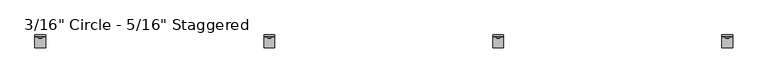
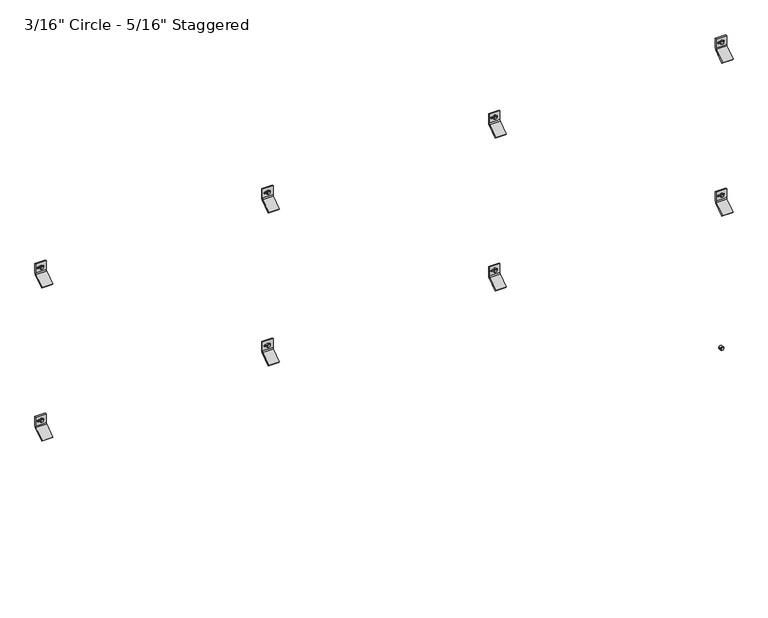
"""IFC4 building model written with IfcOpenShell, lengths in millimetres: plate geometry."""

from ifc_helpers import new_model, si_unit, point, frame, frame_2d, origin, place, context, project, spatial, polyline, circle_curve, trimmed, segment, composite_curve, outline, extrude, source, transform, mapped, element, save
from ifc_brep_helpers import plane_surface, cylinder_surface, revolved_surface, advanced_brep


def plate_44aea27e(model_context):
    return source(origin(), model_context, "Body", "SolidModel", [
        extrude(outline(polyline([(1923.7554341, 1223.7070034), (1919.4097216, 1226.2160017), (1919.4097216, 1231.2339983), (1923.7554341, 1233.7429966), (1928.1011466, 1231.2339983), (1928.1011466, 1226.2160017), (1923.7554341, 1223.7070034)])), frame((0.0, -58.7607779, 0.0), z_axis=(0.0, 1.0, 0.0), x_axis=(0.0, 0.0, 1.0)), (0.0, 0.0, 1.0), 11.1357779),
        extrude(outline(composite_curve([segment(trimmed(circle_curve(frame_2d((1923.8487411, 1228.725)), 6.35), [point((1923.8487411, 1235.075))], [point((1923.8487411, 1222.375))], False, "CARTESIAN"), True, "CONTINUOUS"), segment(trimmed(circle_curve(frame_2d((1923.8487411, 1228.725)), 6.35), [point((1923.8487411, 1222.375))], [point((1923.8487411, 1235.075))], False, "CARTESIAN"), True, "CONTINUOUS")], self_intersect=False)), frame((0.0, -57.0817743, 0.0), z_axis=(0.0, 1.0, 0.0), x_axis=(0.0, 0.0, 1.0)), (0.0, 0.0, 1.0), 9.4567743),
        advanced_brep(
        [(1209.675, -47.625, 1906.606122), (1209.675, -51.2819443, 1898.9440896), (1209.675, -89.5163624, 1872.1720618), (1209.675, -92.9330442, 1875.5887436), (1209.675, -54.3526876, 1902.6030001), (1209.675, -52.4002, 1906.6061929), (1209.675, -52.4002, 1940.7988072), (1209.675, -47.625, 1940.7988072), (1247.775, -47.625, 1906.606122), (1247.775, -47.625, 1940.7988072), (1247.775, -52.4002, 1940.7988072), (1247.775, -52.4002, 1906.6061929), (1247.775, -54.3526876, 1902.6030001), (1247.775, -92.9330442, 1875.5887436), (1247.775, -89.5163624, 1872.1720618), (1247.775, -51.2819443, 1898.9440896), (1235.4661889, -52.4002, 1926.753591), (1235.4661889, -52.4002, 1920.403591), (1219.2383287, -52.4002, 1920.403591), (1219.2383287, -52.4002, 1926.753591), (1235.4661889, -47.625, 1920.403591), (1235.4661889, -47.625, 1926.753591), (1219.2383287, -47.625, 1926.753591), (1219.2383287, -47.625, 1920.403591)],
        [
            (0, 1, circle_curve(frame((1209.675, -57.4802202, 1906.606122), z_axis=(-1.0, 0.0, 0.0), x_axis=(0.0, -1.0, 0.0)), 9.8552202)),
            (1, 2),
            (2, 3),
            (3, 4),
            (4, 5, circle_curve(frame((1209.675, -57.4803246, 1906.6061929), z_axis=(1.0, 0.0, 0.0), x_axis=(0.0, -1.0, 0.0)), 5.0801246)),
            (5, 6),
            (6, 7),
            (7, 0),
            (8, 9),
            (9, 10),
            (10, 11),
            (11, 12, circle_curve(frame((1247.775, -57.4803246, 1906.6061929), z_axis=(-1.0, 0.0, 0.0), x_axis=(0.0, -1.0, 0.0)), 5.0801246)),
            (12, 13),
            (13, 14),
            (14, 15),
            (15, 8, circle_curve(frame((1247.775, -57.4802202, 1906.606122), z_axis=(1.0, 0.0, 0.0), x_axis=(0.0, -1.0, 0.0)), 9.8552202)),
            (4, 12),
            (11, 5),
            (10, 6),
            (16, 17, circle_curve(frame((1235.4661889, -52.4002, 1923.578591), z_axis=(0.0, 1.0, 0.0), x_axis=(0.0, 0.0, -1.0)), 3.175)),
            (17, 18),
            (18, 19, circle_curve(frame((1219.2383287, -52.4002, 1923.578591), z_axis=(0.0, 1.0, 0.0), x_axis=(0.0, 0.0, -1.0)), 3.175)),
            (19, 16),
            (9, 7),
            (8, 0),
            (20, 21, circle_curve(frame((1235.4661889, -47.625, 1923.578591), z_axis=(0.0, -1.0, 0.0), x_axis=(0.0, 0.0, -1.0)), 3.175)),
            (21, 22),
            (22, 23, circle_curve(frame((1219.2383287, -47.625, 1923.578591), z_axis=(0.0, -1.0, 0.0), x_axis=(0.0, 0.0, -1.0)), 3.175)),
            (23, 20),
            (15, 1),
            (20, 17),
            (16, 21),
            (19, 22),
            (18, 23),
            (14, 2),
            (13, 3),
        ],
        [
            plane_surface(frame((1209.675, -67.3354404, 1906.606122), z_axis=(-1.0, 0.0, 0.0), x_axis=(0.0, 0.0, 1.0))),
            plane_surface(frame((1247.775, -67.3354404, 1906.606122), z_axis=(1.0, 0.0, 0.0), x_axis=(0.0, 0.0, -1.0))),
            revolved_surface(polyline([(1247.775, -62.5604492, 1906.6061929), (1209.675, -62.5604492, 1906.6061929)]), (1247.775, -57.4803246, 1906.6061929), (1.0, 0.0, 0.0)),
            plane_surface(frame((1209.675, -52.4002, 1906.6061929), z_axis=(0.0, -1.0, 0.0), x_axis=(1.0, 0.0, 0.0))),
            plane_surface(frame((1209.675, -52.4002, 1940.7988072), z_axis=(0.0, 0.0, 1.0), x_axis=(1.0, 0.0, 0.0))),
            plane_surface(frame((1209.675, -47.625, 1940.7988072), z_axis=(0.0, 1.0, 6.99569853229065e-12), x_axis=(1.0, 0.0, 0.0))),
            cylinder_surface(frame((1247.775, -57.4802202, 1906.606122), z_axis=(-1.0, 0.0, 0.0), x_axis=(0.0, -1.0, 0.0)), 9.8552202),
            revolved_surface(polyline([(1235.4661889, -52.4002, 1920.403591), (1235.4661889, -47.625, 1920.403591)]), (1235.4661889, -25.6669948, 1923.578591), (0.0, -1.0, 0.0)),
            plane_surface(frame((1235.4661889, -86.677982, 1926.753591), z_axis=(0.0, 0.0, -1.0), x_axis=(0.0, 1.0, 0.0))),
            revolved_surface(polyline([(1219.2383287, -52.4002, 1920.403591), (1219.2383287, -47.625, 1920.403591)]), (1219.2383287, -25.6669948, 1923.578591), (0.0, -1.0, 0.0)),
            plane_surface(frame((1219.2383287, -86.677982, 1920.403591), z_axis=(-2.7237720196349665e-11, 0.0, 1.0), x_axis=(0.0, 1.0, 0.0))),
            plane_surface(frame((1209.675, -51.2819443, 1898.9440896), z_axis=(0.0, 0.5735764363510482, -0.8191520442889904), x_axis=(1.0, 0.0, 0.0))),
            plane_surface(frame((1209.675, -89.5163624, 1872.1720618), z_axis=(0.0, -0.7071067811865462, -0.7071067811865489), x_axis=(1.0, 0.0, 0.0))),
            plane_surface(frame((1209.675, -92.9330442, 1875.5887436), z_axis=(0.0, -0.5735764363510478, 0.8191520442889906), x_axis=(1.0, 0.0, 0.0))),
        ],
        [
            (0, [[1, 2, 3, 4, 5, 6, 7, 8]]),
            (1, [[9, 10, 11, 12, 13, 14, 15, 16]]),
            (2, [[-5, 17, -12, 18]]),
            (3, [[-6, -18, -11, 19], [20, 21, 22, 23]]),
            (4, [[-7, -19, -10, 24]]),
            (5, [[-8, -24, -9, 25], [26, 27, 28, 29]]),
            (6, [[-1, -25, -16, 30]]),
            (7, [[31, -20, 32, -26]]),
            (8, [[-32, -23, 33, -27]]),
            (9, [[-33, -22, 34, -28]]),
            (10, [[-31, -29, -34, -21]]),
            (11, [[-2, -30, -15, 35]]),
            (12, [[-3, -35, -14, 36]]),
            (13, [[-4, -36, -13, -17]]),
        ],
    ),
        extrude(outline(polyline([(1923.7554341, 404.5570034), (1919.4097216, 407.0660017), (1919.4097216, 412.0839983), (1923.7554341, 414.5929966), (1928.1011466, 412.0839983), (1928.1011466, 407.0660017), (1923.7554341, 404.5570034)])), frame((0.0, -58.7607779, 0.0), z_axis=(0.0, 1.0, 0.0), x_axis=(0.0, 0.0, 1.0)), (0.0, 0.0, 1.0), 11.1357779),
        extrude(outline(composite_curve([segment(trimmed(circle_curve(frame_2d((1923.8487411, 409.575)), 6.35), [point((1923.8487411, 415.925))], [point((1923.8487411, 403.225))], False, "CARTESIAN"), True, "CONTINUOUS"), segment(trimmed(circle_curve(frame_2d((1923.8487411, 409.575)), 6.35), [point((1923.8487411, 403.225))], [point((1923.8487411, 415.925))], False, "CARTESIAN"), True, "CONTINUOUS")], self_intersect=False)), frame((0.0, -57.0817743, 0.0), z_axis=(0.0, 1.0, 0.0), x_axis=(0.0, 0.0, 1.0)), (0.0, 0.0, 1.0), 9.4567743),
        advanced_brep(
        [(390.525, -47.625, 1906.606122), (390.525, -51.2819443, 1898.9440896), (390.525, -89.5163624, 1872.1720618), (390.525, -92.9330442, 1875.5887436), (390.525, -54.3526876, 1902.6030001), (390.525, -52.4002, 1906.6061929), (390.525, -52.4002, 1940.7988072), (390.525, -47.625, 1940.7988072), (428.625, -47.625, 1906.606122), (428.625, -47.625, 1940.7988072), (428.625, -52.4002, 1940.7988072), (428.625, -52.4002, 1906.6061929), (428.625, -54.3526876, 1902.6030001), (428.625, -92.9330442, 1875.5887436), (428.625, -89.5163624, 1872.1720618), (428.625, -51.2819443, 1898.9440896), (416.3161889, -52.4002, 1926.753591), (416.3161889, -52.4002, 1920.403591), (400.0883287, -52.4002, 1920.403591), (400.0883287, -52.4002, 1926.753591), (416.3161889, -47.625, 1920.403591), (416.3161889, -47.625, 1926.753591), (400.0883287, -47.625, 1926.753591), (400.0883287, -47.625, 1920.403591)],
        [
            (0, 1, circle_curve(frame((390.525, -57.4802202, 1906.606122), z_axis=(-1.0, 0.0, 0.0), x_axis=(0.0, -1.0, 0.0)), 9.8552202)),
            (1, 2),
            (2, 3),
            (3, 4),
            (4, 5, circle_curve(frame((390.525, -57.4803246, 1906.6061929), z_axis=(1.0, 0.0, 0.0), x_axis=(0.0, -1.0, 0.0)), 5.0801246)),
            (5, 6),
            (6, 7),
            (7, 0),
            (8, 9),
            (9, 10),
            (10, 11),
            (11, 12, circle_curve(frame((428.625, -57.4803246, 1906.6061929), z_axis=(-1.0, 0.0, 0.0), x_axis=(0.0, -1.0, 0.0)), 5.0801246)),
            (12, 13),
            (13, 14),
            (14, 15),
            (15, 8, circle_curve(frame((428.625, -57.4802202, 1906.606122), z_axis=(1.0, 0.0, 0.0), x_axis=(0.0, -1.0, 0.0)), 9.8552202)),
            (4, 12),
            (11, 5),
            (10, 6),
            (16, 17, circle_curve(frame((416.3161889, -52.4002, 1923.578591), z_axis=(0.0, 1.0, 0.0), x_axis=(0.0, 0.0, -1.0)), 3.175)),
            (17, 18),
            (18, 19, circle_curve(frame((400.0883287, -52.4002, 1923.578591), z_axis=(0.0, 1.0, 0.0), x_axis=(0.0, 0.0, -1.0)), 3.175)),
            (19, 16),
            (9, 7),
            (8, 0),
            (20, 21, circle_curve(frame((416.3161889, -47.625, 1923.578591), z_axis=(0.0, -1.0, 0.0), x_axis=(0.0, 0.0, -1.0)), 3.175)),
            (21, 22),
            (22, 23, circle_curve(frame((400.0883287, -47.625, 1923.578591), z_axis=(0.0, -1.0, 0.0), x_axis=(0.0, 0.0, -1.0)), 3.175)),
            (23, 20),
            (15, 1),
            (20, 17),
            (16, 21),
            (19, 22),
            (18, 23),
            (14, 2),
            (13, 3),
        ],
        [
            plane_surface(frame((390.525, -67.3354404, 1906.606122), z_axis=(-1.0, 0.0, 0.0), x_axis=(0.0, 0.0, 1.0))),
            plane_surface(frame((428.625, -67.3354404, 1906.606122), z_axis=(1.0, 0.0, 0.0), x_axis=(0.0, 0.0, -1.0))),
            revolved_surface(polyline([(428.625, -62.5604492, 1906.6061929), (390.525, -62.5604492, 1906.6061929)]), (428.625, -57.4803246, 1906.6061929), (1.0, 0.0, 0.0)),
            plane_surface(frame((390.525, -52.4002, 1906.6061929), z_axis=(0.0, -1.0, 0.0), x_axis=(1.0, 0.0, 0.0))),
            plane_surface(frame((390.525, -52.4002, 1940.7988072), z_axis=(0.0, 0.0, 1.0), x_axis=(1.0, 0.0, 0.0))),
            plane_surface(frame((390.525, -47.625, 1940.7988072), z_axis=(0.0, 1.0, 6.99569853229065e-12), x_axis=(1.0, 0.0, 0.0))),
            cylinder_surface(frame((428.625, -57.4802202, 1906.606122), z_axis=(-1.0, 0.0, 0.0), x_axis=(0.0, -1.0, 0.0)), 9.8552202),
            revolved_surface(polyline([(416.3161889, -52.4002, 1920.403591), (416.3161889, -47.625, 1920.403591)]), (416.3161889, -25.6669948, 1923.578591), (0.0, -1.0, 0.0)),
            plane_surface(frame((416.3161889, -86.677982, 1926.753591), z_axis=(0.0, 0.0, -1.0), x_axis=(0.0, 1.0, 0.0))),
            revolved_surface(polyline([(400.0883287, -52.4002, 1920.403591), (400.0883287, -47.625, 1920.403591)]), (400.0883287, -25.6669948, 1923.578591), (0.0, -1.0, 0.0)),
            plane_surface(frame((400.0883287, -86.677982, 1920.403591), z_axis=(-2.7237720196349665e-11, 0.0, 1.0), x_axis=(0.0, 1.0, 0.0))),
            plane_surface(frame((390.525, -51.2819443, 1898.9440896), z_axis=(0.0, 0.5735764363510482, -0.8191520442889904), x_axis=(1.0, 0.0, 0.0))),
            plane_surface(frame((390.525, -89.5163624, 1872.1720618), z_axis=(0.0, -0.7071067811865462, -0.7071067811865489), x_axis=(1.0, 0.0, 0.0))),
            plane_surface(frame((390.525, -92.9330442, 1875.5887436), z_axis=(0.0, -0.5735764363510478, 0.8191520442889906), x_axis=(1.0, 0.0, 0.0))),
        ],
        [
            (0, [[1, 2, 3, 4, 5, 6, 7, 8]]),
            (1, [[9, 10, 11, 12, 13, 14, 15, 16]]),
            (2, [[-5, 17, -12, 18]]),
            (3, [[-6, -18, -11, 19], [20, 21, 22, 23]]),
            (4, [[-7, -19, -10, 24]]),
            (5, [[-8, -24, -9, 25], [26, 27, 28, 29]]),
            (6, [[-1, -25, -16, 30]]),
            (7, [[31, -20, 32, -26]]),
            (8, [[-32, -23, 33, -27]]),
            (9, [[-33, -22, 34, -28]]),
            (10, [[-31, -29, -34, -21]]),
            (11, [[-2, -30, -15, 35]]),
            (12, [[-3, -35, -14, 36]]),
            (13, [[-4, -36, -13, -17]]),
        ],
    ),
        extrude(outline(polyline([(1923.7554341, -414.5929966), (1919.4097216, -412.0839983), (1919.4097216, -407.0660017), (1923.7554341, -404.5570034), (1928.1011466, -407.0660017), (1928.1011466, -412.0839983), (1923.7554341, -414.5929966)])), frame((0.0, -58.7607779, 0.0), z_axis=(0.0, 1.0, 0.0), x_axis=(0.0, 0.0, 1.0)), (0.0, 0.0, 1.0), 11.1357779),
        extrude(outline(composite_curve([segment(trimmed(circle_curve(frame_2d((1923.8487411, -409.575)), 6.35), [point((1923.8487411, -403.225))], [point((1923.8487411, -415.925))], False, "CARTESIAN"), True, "CONTINUOUS"), segment(trimmed(circle_curve(frame_2d((1923.8487411, -409.575)), 6.35), [point((1923.8487411, -415.925))], [point((1923.8487411, -403.225))], False, "CARTESIAN"), True, "CONTINUOUS")], self_intersect=False)), frame((0.0, -57.0817743, 0.0), z_axis=(0.0, 1.0, 0.0), x_axis=(0.0, 0.0, 1.0)), (0.0, 0.0, 1.0), 9.4567743),
        advanced_brep(
        [(-428.625, -47.625, 1906.606122), (-428.625, -51.2819443, 1898.9440896), (-428.625, -89.5163624, 1872.1720618), (-428.625, -92.9330442, 1875.5887436), (-428.625, -54.3526876, 1902.6030001), (-428.625, -52.4002, 1906.6061929), (-428.625, -52.4002, 1940.7988072), (-428.625, -47.625, 1940.7988072), (-390.525, -47.625, 1906.606122), (-390.525, -47.625, 1940.7988072), (-390.525, -52.4002, 1940.7988072), (-390.525, -52.4002, 1906.6061929), (-390.525, -54.3526876, 1902.6030001), (-390.525, -92.9330442, 1875.5887436), (-390.525, -89.5163624, 1872.1720618), (-390.525, -51.2819443, 1898.9440896), (-402.8338111, -52.4002, 1926.753591), (-402.8338111, -52.4002, 1920.403591), (-419.0616713, -52.4002, 1920.403591), (-419.0616713, -52.4002, 1926.753591), (-402.8338111, -47.625, 1920.403591), (-402.8338111, -47.625, 1926.753591), (-419.0616713, -47.625, 1926.753591), (-419.0616713, -47.625, 1920.403591)],
        [
            (0, 1, circle_curve(frame((-428.625, -57.4802202, 1906.606122), z_axis=(-1.0, 0.0, 0.0), x_axis=(0.0, -1.0, 0.0)), 9.8552202)),
            (1, 2),
            (2, 3),
            (3, 4),
            (4, 5, circle_curve(frame((-428.625, -57.4803246, 1906.6061929), z_axis=(1.0, 0.0, 0.0), x_axis=(0.0, -1.0, 0.0)), 5.0801246)),
            (5, 6),
            (6, 7),
            (7, 0),
            (8, 9),
            (9, 10),
            (10, 11),
            (11, 12, circle_curve(frame((-390.525, -57.4803246, 1906.6061929), z_axis=(-1.0, 0.0, 0.0), x_axis=(0.0, -1.0, 0.0)), 5.0801246)),
            (12, 13),
            (13, 14),
            (14, 15),
            (15, 8, circle_curve(frame((-390.525, -57.4802202, 1906.606122), z_axis=(1.0, 0.0, 0.0), x_axis=(0.0, -1.0, 0.0)), 9.8552202)),
            (4, 12),
            (11, 5),
            (10, 6),
            (16, 17, circle_curve(frame((-402.8338111, -52.4002, 1923.578591), z_axis=(0.0, 1.0, 0.0), x_axis=(0.0, 0.0, -1.0)), 3.175)),
            (17, 18),
            (18, 19, circle_curve(frame((-419.0616713, -52.4002, 1923.578591), z_axis=(0.0, 1.0, 0.0), x_axis=(0.0, 0.0, -1.0)), 3.175)),
            (19, 16),
            (9, 7),
            (8, 0),
            (20, 21, circle_curve(frame((-402.8338111, -47.625, 1923.578591), z_axis=(0.0, -1.0, 0.0), x_axis=(0.0, 0.0, -1.0)), 3.175)),
            (21, 22),
            (22, 23, circle_curve(frame((-419.0616713, -47.625, 1923.578591), z_axis=(0.0, -1.0, 0.0), x_axis=(0.0, 0.0, -1.0)), 3.175)),
            (23, 20),
            (15, 1),
            (20, 17),
            (16, 21),
            (19, 22),
            (18, 23),
            (14, 2),
            (13, 3),
        ],
        [
            plane_surface(frame((-428.625, -67.3354404, 1906.606122), z_axis=(-1.0, 0.0, 0.0), x_axis=(0.0, 0.0, 1.0))),
            plane_surface(frame((-390.525, -67.3354404, 1906.606122), z_axis=(1.0, 0.0, 0.0), x_axis=(0.0, 0.0, -1.0))),
            revolved_surface(polyline([(-390.525, -62.5604492, 1906.6061929), (-428.625, -62.5604492, 1906.6061929)]), (-390.525, -57.4803246, 1906.6061929), (1.0, 0.0, 0.0)),
            plane_surface(frame((-428.625, -52.4002, 1906.6061929), z_axis=(0.0, -1.0, 0.0), x_axis=(1.0, 0.0, 0.0))),
            plane_surface(frame((-428.625, -52.4002, 1940.7988072), z_axis=(0.0, 0.0, 1.0), x_axis=(1.0, 0.0, 0.0))),
            plane_surface(frame((-428.625, -47.625, 1940.7988072), z_axis=(0.0, 1.0, 6.99569853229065e-12), x_axis=(1.0, 0.0, 0.0))),
            cylinder_surface(frame((-390.525, -57.4802202, 1906.606122), z_axis=(-1.0, 0.0, 0.0), x_axis=(0.0, -1.0, 0.0)), 9.8552202),
            revolved_surface(polyline([(-402.8338111, -52.4002, 1920.403591), (-402.8338111, -47.625, 1920.403591)]), (-402.8338111, -25.6669948, 1923.578591), (0.0, -1.0, 0.0)),
            plane_surface(frame((-402.8338111, -86.677982, 1926.753591), z_axis=(0.0, 0.0, -1.0), x_axis=(0.0, 1.0, 0.0))),
            revolved_surface(polyline([(-419.0616713, -52.4002, 1920.403591), (-419.0616713, -47.625, 1920.403591)]), (-419.0616713, -25.6669948, 1923.578591), (0.0, -1.0, 0.0)),
            plane_surface(frame((-419.0616713, -86.677982, 1920.403591), z_axis=(-2.7237720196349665e-11, 0.0, 1.0), x_axis=(0.0, 1.0, 0.0))),
            plane_surface(frame((-428.625, -51.2819443, 1898.9440896), z_axis=(0.0, 0.5735764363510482, -0.8191520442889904), x_axis=(1.0, 0.0, 0.0))),
            plane_surface(frame((-428.625, -89.5163624, 1872.1720618), z_axis=(0.0, -0.7071067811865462, -0.7071067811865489), x_axis=(1.0, 0.0, 0.0))),
            plane_surface(frame((-428.625, -92.9330442, 1875.5887436), z_axis=(0.0, -0.5735764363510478, 0.8191520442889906), x_axis=(1.0, 0.0, 0.0))),
        ],
        [
            (0, [[1, 2, 3, 4, 5, 6, 7, 8]]),
            (1, [[9, 10, 11, 12, 13, 14, 15, 16]]),
            (2, [[-5, 17, -12, 18]]),
            (3, [[-6, -18, -11, 19], [20, 21, 22, 23]]),
            (4, [[-7, -19, -10, 24]]),
            (5, [[-8, -24, -9, 25], [26, 27, 28, 29]]),
            (6, [[-1, -25, -16, 30]]),
            (7, [[31, -20, 32, -26]]),
            (8, [[-32, -23, 33, -27]]),
            (9, [[-33, -22, 34, -28]]),
            (10, [[-31, -29, -34, -21]]),
            (11, [[-2, -30, -15, 35]]),
            (12, [[-3, -35, -14, 36]]),
            (13, [[-4, -36, -13, -17]]),
        ],
    ),
        extrude(outline(polyline([(1923.7554341, -1233.7429966), (1919.4097216, -1231.2339983), (1919.4097216, -1226.2160017), (1923.7554341, -1223.7070034), (1928.1011466, -1226.2160017), (1928.1011466, -1231.2339983), (1923.7554341, -1233.7429966)])), frame((0.0, -58.7607779, 0.0), z_axis=(0.0, 1.0, 0.0), x_axis=(0.0, 0.0, 1.0)), (0.0, 0.0, 1.0), 11.1357779),
        extrude(outline(composite_curve([segment(trimmed(circle_curve(frame_2d((1923.8487411, -1228.725)), 6.35), [point((1923.8487411, -1222.375))], [point((1923.8487411, -1235.075))], False, "CARTESIAN"), True, "CONTINUOUS"), segment(trimmed(circle_curve(frame_2d((1923.8487411, -1228.725)), 6.35), [point((1923.8487411, -1235.075))], [point((1923.8487411, -1222.375))], False, "CARTESIAN"), True, "CONTINUOUS")], self_intersect=False)), frame((0.0, -57.0817743, 0.0), z_axis=(0.0, 1.0, 0.0), x_axis=(0.0, 0.0, 1.0)), (0.0, 0.0, 1.0), 9.4567743),
        advanced_brep(
        [(-1247.775, -47.625, 1906.606122), (-1247.775, -51.2819443, 1898.9440896), (-1247.775, -89.5163624, 1872.1720618), (-1247.775, -92.9330442, 1875.5887436), (-1247.775, -54.3526876, 1902.6030001), (-1247.775, -52.4002, 1906.6061929), (-1247.775, -52.4002, 1940.7988072), (-1247.775, -47.625, 1940.7988072), (-1209.675, -47.625, 1906.606122), (-1209.675, -47.625, 1940.7988072), (-1209.675, -52.4002, 1940.7988072), (-1209.675, -52.4002, 1906.6061929), (-1209.675, -54.3526876, 1902.6030001), (-1209.675, -92.9330442, 1875.5887436), (-1209.675, -89.5163624, 1872.1720618), (-1209.675, -51.2819443, 1898.9440896), (-1221.9838111, -52.4002, 1926.753591), (-1221.9838111, -52.4002, 1920.403591), (-1238.2116713, -52.4002, 1920.403591), (-1238.2116713, -52.4002, 1926.753591), (-1221.9838111, -47.625, 1920.403591), (-1221.9838111, -47.625, 1926.753591), (-1238.2116713, -47.625, 1926.753591), (-1238.2116713, -47.625, 1920.403591)],
        [
            (0, 1, circle_curve(frame((-1247.775, -57.4802202, 1906.606122), z_axis=(-1.0, 0.0, 0.0), x_axis=(0.0, -1.0, 0.0)), 9.8552202)),
            (1, 2),
            (2, 3),
            (3, 4),
            (4, 5, circle_curve(frame((-1247.775, -57.4803246, 1906.6061929), z_axis=(1.0, 0.0, 0.0), x_axis=(0.0, -1.0, 0.0)), 5.0801246)),
            (5, 6),
            (6, 7),
            (7, 0),
            (8, 9),
            (9, 10),
            (10, 11),
            (11, 12, circle_curve(frame((-1209.675, -57.4803246, 1906.6061929), z_axis=(-1.0, 0.0, 0.0), x_axis=(0.0, -1.0, 0.0)), 5.0801246)),
            (12, 13),
            (13, 14),
            (14, 15),
            (15, 8, circle_curve(frame((-1209.675, -57.4802202, 1906.606122), z_axis=(1.0, 0.0, 0.0), x_axis=(0.0, -1.0, 0.0)), 9.8552202)),
            (4, 12),
            (11, 5),
            (10, 6),
            (16, 17, circle_curve(frame((-1221.9838111, -52.4002, 1923.578591), z_axis=(0.0, 1.0, 0.0), x_axis=(0.0, 0.0, -1.0)), 3.175)),
            (17, 18),
            (18, 19, circle_curve(frame((-1238.2116713, -52.4002, 1923.578591), z_axis=(0.0, 1.0, 0.0), x_axis=(0.0, 0.0, -1.0)), 3.175)),
            (19, 16),
            (9, 7),
            (8, 0),
            (20, 21, circle_curve(frame((-1221.9838111, -47.625, 1923.578591), z_axis=(0.0, -1.0, 0.0), x_axis=(0.0, 0.0, -1.0)), 3.175)),
            (21, 22),
            (22, 23, circle_curve(frame((-1238.2116713, -47.625, 1923.578591), z_axis=(0.0, -1.0, 0.0), x_axis=(0.0, 0.0, -1.0)), 3.175)),
            (23, 20),
            (15, 1),
            (20, 17),
            (16, 21),
            (19, 22),
            (18, 23),
            (14, 2),
            (13, 3),
        ],
        [
            plane_surface(frame((-1247.775, -67.3354404, 1906.606122), z_axis=(-1.0, 0.0, 0.0), x_axis=(0.0, 0.0, 1.0))),
            plane_surface(frame((-1209.675, -67.3354404, 1906.606122), z_axis=(1.0, 0.0, 0.0), x_axis=(0.0, 0.0, -1.0))),
            revolved_surface(polyline([(-1209.675, -62.5604492, 1906.6061929), (-1247.775, -62.5604492, 1906.6061929)]), (-1209.675, -57.4803246, 1906.6061929), (1.0, 0.0, 0.0)),
            plane_surface(frame((-1247.775, -52.4002, 1906.6061929), z_axis=(0.0, -1.0, 0.0), x_axis=(1.0, 0.0, 0.0))),
            plane_surface(frame((-1247.775, -52.4002, 1940.7988072), z_axis=(0.0, 0.0, 1.0), x_axis=(1.0, 0.0, 0.0))),
            plane_surface(frame((-1247.775, -47.625, 1940.7988072), z_axis=(0.0, 1.0, 6.99569853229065e-12), x_axis=(1.0, 0.0, 0.0))),
            cylinder_surface(frame((-1209.675, -57.4802202, 1906.606122), z_axis=(-1.0, 0.0, 0.0), x_axis=(0.0, -1.0, 0.0)), 9.8552202),
            revolved_surface(polyline([(-1221.9838111, -52.4002, 1920.403591), (-1221.9838111, -47.625, 1920.403591)]), (-1221.9838111, -25.6669948, 1923.578591), (0.0, -1.0, 0.0)),
            plane_surface(frame((-1221.9838111, -86.677982, 1926.753591), z_axis=(0.0, 0.0, -1.0), x_axis=(0.0, 1.0, 0.0))),
            revolved_surface(polyline([(-1238.2116713, -52.4002, 1920.403591), (-1238.2116713, -47.625, 1920.403591)]), (-1238.2116713, -25.6669948, 1923.578591), (0.0, -1.0, 0.0)),
            plane_surface(frame((-1238.2116713, -86.677982, 1920.403591), z_axis=(-2.7237720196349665e-11, 0.0, 1.0), x_axis=(0.0, 1.0, 0.0))),
            plane_surface(frame((-1247.775, -51.2819443, 1898.9440896), z_axis=(0.0, 0.5735764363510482, -0.8191520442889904), x_axis=(1.0, 0.0, 0.0))),
            plane_surface(frame((-1247.775, -89.5163624, 1872.1720618), z_axis=(0.0, -0.7071067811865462, -0.7071067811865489), x_axis=(1.0, 0.0, 0.0))),
            plane_surface(frame((-1247.775, -92.9330442, 1875.5887436), z_axis=(0.0, -0.5735764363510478, 0.8191520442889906), x_axis=(1.0, 0.0, 0.0))),
        ],
        [
            (0, [[1, 2, 3, 4, 5, 6, 7, 8]]),
            (1, [[9, 10, 11, 12, 13, 14, 15, 16]]),
            (2, [[-5, 17, -12, 18]]),
            (3, [[-6, -18, -11, 19], [20, 21, 22, 23]]),
            (4, [[-7, -19, -10, 24]]),
            (5, [[-8, -24, -9, 25], [26, 27, 28, 29]]),
            (6, [[-1, -25, -16, 30]]),
            (7, [[31, -20, 32, -26]]),
            (8, [[-32, -23, 33, -27]]),
            (9, [[-33, -22, 34, -28]]),
            (10, [[-31, -29, -34, -21]]),
            (11, [[-2, -30, -15, 35]]),
            (12, [[-3, -35, -14, 36]]),
            (13, [[-4, -36, -13, -17]]),
        ],
    ),
        extrude(outline(polyline([(1339.1301335, 1223.7070034), (1334.784421, 1226.2160017), (1334.784421, 1231.2339983), (1339.1301335, 1233.7429966), (1343.475846, 1231.2339983), (1343.475846, 1226.2160017), (1339.1301335, 1223.7070034)])), frame((0.0, -58.7607779, 0.0), z_axis=(0.0, 1.0, 0.0), x_axis=(0.0, 0.0, 1.0)), (0.0, 0.0, 1.0), 11.1357779),
        extrude(outline(composite_curve([segment(trimmed(circle_curve(frame_2d((1339.2234405, 1228.725)), 6.35), [point((1339.2234405, 1235.075))], [point((1339.2234405, 1222.375))], False, "CARTESIAN"), True, "CONTINUOUS"), segment(trimmed(circle_curve(frame_2d((1339.2234405, 1228.725)), 6.35), [point((1339.2234405, 1222.375))], [point((1339.2234405, 1235.075))], False, "CARTESIAN"), True, "CONTINUOUS")], self_intersect=False)), frame((0.0, -57.0817743, 0.0), z_axis=(0.0, 1.0, 0.0), x_axis=(0.0, 0.0, 1.0)), (0.0, 0.0, 1.0), 9.4567743),
        advanced_brep(
        [(1209.675, -47.625, 1321.9808214), (1209.675, -51.2819443, 1314.318789), (1209.675, -89.5163624, 1287.5467612), (1209.675, -92.9330442, 1290.963443), (1209.675, -54.3526876, 1317.9776995), (1209.675, -52.4002, 1321.9808923), (1209.675, -52.4002, 1356.1735066), (1209.675, -47.625, 1356.1735066), (1247.775, -47.625, 1321.9808214), (1247.775, -47.625, 1356.1735066), (1247.775, -52.4002, 1356.1735066), (1247.775, -52.4002, 1321.9808923), (1247.775, -54.3526876, 1317.9776995), (1247.775, -92.9330442, 1290.963443), (1247.775, -89.5163624, 1287.5467612), (1247.775, -51.2819443, 1314.318789), (1235.4661889, -52.4002, 1342.1282903), (1235.4661889, -52.4002, 1335.7782903), (1219.2383287, -52.4002, 1335.7782903), (1219.2383287, -52.4002, 1342.1282903), (1235.4661889, -47.625, 1335.7782903), (1235.4661889, -47.625, 1342.1282903), (1219.2383287, -47.625, 1342.1282903), (1219.2383287, -47.625, 1335.7782903)],
        [
            (0, 1, circle_curve(frame((1209.675, -57.4802202, 1321.9808214), z_axis=(-1.0, 0.0, 0.0), x_axis=(0.0, -1.0, 0.0)), 9.8552202)),
            (1, 2),
            (2, 3),
            (3, 4),
            (4, 5, circle_curve(frame((1209.675, -57.4803246, 1321.9808923), z_axis=(1.0, 0.0, 0.0), x_axis=(0.0, -1.0, 0.0)), 5.0801246)),
            (5, 6),
            (6, 7),
            (7, 0),
            (8, 9),
            (9, 10),
            (10, 11),
            (11, 12, circle_curve(frame((1247.775, -57.4803246, 1321.9808923), z_axis=(-1.0, 0.0, 0.0), x_axis=(0.0, -1.0, 0.0)), 5.0801246)),
            (12, 13),
            (13, 14),
            (14, 15),
            (15, 8, circle_curve(frame((1247.775, -57.4802202, 1321.9808214), z_axis=(1.0, 0.0, 0.0), x_axis=(0.0, -1.0, 0.0)), 9.8552202)),
            (4, 12),
            (11, 5),
            (10, 6),
            (16, 17, circle_curve(frame((1235.4661889, -52.4002, 1338.9532903), z_axis=(0.0, 1.0, 0.0), x_axis=(0.0, 0.0, -1.0)), 3.175)),
            (17, 18),
            (18, 19, circle_curve(frame((1219.2383287, -52.4002, 1338.9532903), z_axis=(0.0, 1.0, 0.0), x_axis=(0.0, 0.0, -1.0)), 3.175)),
            (19, 16),
            (9, 7),
            (8, 0),
            (20, 21, circle_curve(frame((1235.4661889, -47.625, 1338.9532903), z_axis=(0.0, -1.0, 0.0), x_axis=(0.0, 0.0, -1.0)), 3.175)),
            (21, 22),
            (22, 23, circle_curve(frame((1219.2383287, -47.625, 1338.9532903), z_axis=(0.0, -1.0, 0.0), x_axis=(0.0, 0.0, -1.0)), 3.175)),
            (23, 20),
            (15, 1),
            (20, 17),
            (16, 21),
            (19, 22),
            (18, 23),
            (14, 2),
            (13, 3),
        ],
        [
            plane_surface(frame((1209.675, -67.3354404, 1321.9808214), z_axis=(-1.0, 0.0, 0.0), x_axis=(0.0, 0.0, 1.0))),
            plane_surface(frame((1247.775, -67.3354404, 1321.9808214), z_axis=(1.0, 0.0, 0.0), x_axis=(0.0, 0.0, -1.0))),
            revolved_surface(polyline([(1247.775, -62.5604492, 1321.9808923), (1209.675, -62.5604492, 1321.9808923)]), (1247.775, -57.4803246, 1321.9808923), (1.0, 0.0, 0.0)),
            plane_surface(frame((1209.675, -52.4002, 1321.9808923), z_axis=(0.0, -1.0, 0.0), x_axis=(1.0, 0.0, 0.0))),
            plane_surface(frame((1209.675, -52.4002, 1356.1735066), z_axis=(0.0, 0.0, 1.0), x_axis=(1.0, 0.0, 0.0))),
            plane_surface(frame((1209.675, -47.625, 1356.1735066), z_axis=(0.0, 1.0, 6.99569853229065e-12), x_axis=(1.0, 0.0, 0.0))),
            cylinder_surface(frame((1247.775, -57.4802202, 1321.9808214), z_axis=(-1.0, 0.0, 0.0), x_axis=(0.0, -1.0, 0.0)), 9.8552202),
            revolved_surface(polyline([(1235.4661889, -52.4002, 1335.7782903), (1235.4661889, -47.625, 1335.7782903)]), (1235.4661889, -25.6669948, 1338.9532903), (0.0, -1.0, 0.0)),
            plane_surface(frame((1235.4661889, -86.677982, 1342.1282903), z_axis=(0.0, 0.0, -1.0), x_axis=(0.0, 1.0, 0.0))),
            revolved_surface(polyline([(1219.2383287, -52.4002, 1335.7782903), (1219.2383287, -47.625, 1335.7782903)]), (1219.2383287, -25.6669948, 1338.9532903), (0.0, -1.0, 0.0)),
            plane_surface(frame((1219.2383287, -86.677982, 1335.7782903), z_axis=(-2.7237766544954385e-11, 0.0, 1.0), x_axis=(0.0, 1.0, 0.0))),
            plane_surface(frame((1209.675, -51.2819443, 1314.318789), z_axis=(0.0, 0.5735764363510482, -0.8191520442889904), x_axis=(1.0, 0.0, 0.0))),
            plane_surface(frame((1209.675, -89.5163624, 1287.5467612), z_axis=(0.0, -0.7071067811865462, -0.7071067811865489), x_axis=(1.0, 0.0, 0.0))),
            plane_surface(frame((1209.675, -92.9330442, 1290.963443), z_axis=(0.0, -0.5735764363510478, 0.8191520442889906), x_axis=(1.0, 0.0, 0.0))),
        ],
        [
            (0, [[1, 2, 3, 4, 5, 6, 7, 8]]),
            (1, [[9, 10, 11, 12, 13, 14, 15, 16]]),
            (2, [[-5, 17, -12, 18]]),
            (3, [[-6, -18, -11, 19], [20, 21, 22, 23]]),
            (4, [[-7, -19, -10, 24]]),
            (5, [[-8, -24, -9, 25], [26, 27, 28, 29]]),
            (6, [[-1, -25, -16, 30]]),
            (7, [[31, -20, 32, -26]]),
            (8, [[-32, -23, 33, -27]]),
            (9, [[-33, -22, 34, -28]]),
            (10, [[-31, -29, -34, -21]]),
            (11, [[-2, -30, -15, 35]]),
            (12, [[-3, -35, -14, 36]]),
            (13, [[-4, -36, -13, -17]]),
        ],
    ),
        extrude(outline(polyline([(1339.1301335, 404.5570034), (1334.784421, 407.0660017), (1334.784421, 412.0839983), (1339.1301335, 414.5929966), (1343.475846, 412.0839983), (1343.475846, 407.0660017), (1339.1301335, 404.5570034)])), frame((0.0, -58.7607779, 0.0), z_axis=(0.0, 1.0, 0.0), x_axis=(0.0, 0.0, 1.0)), (0.0, 0.0, 1.0), 11.1357779),
        extrude(outline(composite_curve([segment(trimmed(circle_curve(frame_2d((1339.2234405, 409.575)), 6.35), [point((1339.2234405, 415.925))], [point((1339.2234405, 403.225))], False, "CARTESIAN"), True, "CONTINUOUS"), segment(trimmed(circle_curve(frame_2d((1339.2234405, 409.575)), 6.35), [point((1339.2234405, 403.225))], [point((1339.2234405, 415.925))], False, "CARTESIAN"), True, "CONTINUOUS")], self_intersect=False)), frame((0.0, -57.0817743, 0.0), z_axis=(0.0, 1.0, 0.0), x_axis=(0.0, 0.0, 1.0)), (0.0, 0.0, 1.0), 9.4567743),
        advanced_brep(
        [(390.525, -47.625, 1321.9808214), (390.525, -51.2819443, 1314.318789), (390.525, -89.5163624, 1287.5467612), (390.525, -92.9330442, 1290.963443), (390.525, -54.3526876, 1317.9776995), (390.525, -52.4002, 1321.9808923), (390.525, -52.4002, 1356.1735066), (390.525, -47.625, 1356.1735066), (428.625, -47.625, 1321.9808214), (428.625, -47.625, 1356.1735066), (428.625, -52.4002, 1356.1735066), (428.625, -52.4002, 1321.9808923), (428.625, -54.3526876, 1317.9776995), (428.625, -92.9330442, 1290.963443), (428.625, -89.5163624, 1287.5467612), (428.625, -51.2819443, 1314.318789), (416.3161889, -52.4002, 1342.1282903), (416.3161889, -52.4002, 1335.7782903), (400.0883287, -52.4002, 1335.7782903), (400.0883287, -52.4002, 1342.1282903), (416.3161889, -47.625, 1335.7782903), (416.3161889, -47.625, 1342.1282903), (400.0883287, -47.625, 1342.1282903), (400.0883287, -47.625, 1335.7782903)],
        [
            (0, 1, circle_curve(frame((390.525, -57.4802202, 1321.9808214), z_axis=(-1.0, 0.0, 0.0), x_axis=(0.0, -1.0, 0.0)), 9.8552202)),
            (1, 2),
            (2, 3),
            (3, 4),
            (4, 5, circle_curve(frame((390.525, -57.4803246, 1321.9808923), z_axis=(1.0, 0.0, 0.0), x_axis=(0.0, -1.0, 0.0)), 5.0801246)),
            (5, 6),
            (6, 7),
            (7, 0),
            (8, 9),
            (9, 10),
            (10, 11),
            (11, 12, circle_curve(frame((428.625, -57.4803246, 1321.9808923), z_axis=(-1.0, 0.0, 0.0), x_axis=(0.0, -1.0, 0.0)), 5.0801246)),
            (12, 13),
            (13, 14),
            (14, 15),
            (15, 8, circle_curve(frame((428.625, -57.4802202, 1321.9808214), z_axis=(1.0, 0.0, 0.0), x_axis=(0.0, -1.0, 0.0)), 9.8552202)),
            (4, 12),
            (11, 5),
            (10, 6),
            (16, 17, circle_curve(frame((416.3161889, -52.4002, 1338.9532903), z_axis=(0.0, 1.0, 0.0), x_axis=(0.0, 0.0, -1.0)), 3.175)),
            (17, 18),
            (18, 19, circle_curve(frame((400.0883287, -52.4002, 1338.9532903), z_axis=(0.0, 1.0, 0.0), x_axis=(0.0, 0.0, -1.0)), 3.175)),
            (19, 16),
            (9, 7),
            (8, 0),
            (20, 21, circle_curve(frame((416.3161889, -47.625, 1338.9532903), z_axis=(0.0, -1.0, 0.0), x_axis=(0.0, 0.0, -1.0)), 3.175)),
            (21, 22),
            (22, 23, circle_curve(frame((400.0883287, -47.625, 1338.9532903), z_axis=(0.0, -1.0, 0.0), x_axis=(0.0, 0.0, -1.0)), 3.175)),
            (23, 20),
            (15, 1),
            (20, 17),
            (16, 21),
            (19, 22),
            (18, 23),
            (14, 2),
            (13, 3),
        ],
        [
            plane_surface(frame((390.525, -67.3354404, 1321.9808214), z_axis=(-1.0, 0.0, 0.0), x_axis=(0.0, 0.0, 1.0))),
            plane_surface(frame((428.625, -67.3354404, 1321.9808214), z_axis=(1.0, 0.0, 0.0), x_axis=(0.0, 0.0, -1.0))),
            revolved_surface(polyline([(428.625, -62.5604492, 1321.9808923), (390.525, -62.5604492, 1321.9808923)]), (428.625, -57.4803246, 1321.9808923), (1.0, 0.0, 0.0)),
            plane_surface(frame((390.525, -52.4002, 1321.9808923), z_axis=(0.0, -1.0, 0.0), x_axis=(1.0, 0.0, 0.0))),
            plane_surface(frame((390.525, -52.4002, 1356.1735066), z_axis=(0.0, 0.0, 1.0), x_axis=(1.0, 0.0, 0.0))),
            plane_surface(frame((390.525, -47.625, 1356.1735066), z_axis=(0.0, 1.0, 6.99569853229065e-12), x_axis=(1.0, 0.0, 0.0))),
            cylinder_surface(frame((428.625, -57.4802202, 1321.9808214), z_axis=(-1.0, 0.0, 0.0), x_axis=(0.0, -1.0, 0.0)), 9.8552202),
            revolved_surface(polyline([(416.3161889, -52.4002, 1335.7782903), (416.3161889, -47.625, 1335.7782903)]), (416.3161889, -25.6669948, 1338.9532903), (0.0, -1.0, 0.0)),
            plane_surface(frame((416.3161889, -86.677982, 1342.1282903), z_axis=(0.0, 0.0, -1.0), x_axis=(0.0, 1.0, 0.0))),
            revolved_surface(polyline([(400.0883287, -52.4002, 1335.7782903), (400.0883287, -47.625, 1335.7782903)]), (400.0883287, -25.6669948, 1338.9532903), (0.0, -1.0, 0.0)),
            plane_surface(frame((400.0883287, -86.677982, 1335.7782903), z_axis=(-2.7237766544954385e-11, 0.0, 1.0), x_axis=(0.0, 1.0, 0.0))),
            plane_surface(frame((390.525, -51.2819443, 1314.318789), z_axis=(0.0, 0.5735764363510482, -0.8191520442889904), x_axis=(1.0, 0.0, 0.0))),
            plane_surface(frame((390.525, -89.5163624, 1287.5467612), z_axis=(0.0, -0.7071067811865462, -0.7071067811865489), x_axis=(1.0, 0.0, 0.0))),
            plane_surface(frame((390.525, -92.9330442, 1290.963443), z_axis=(0.0, -0.5735764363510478, 0.8191520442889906), x_axis=(1.0, 0.0, 0.0))),
        ],
        [
            (0, [[1, 2, 3, 4, 5, 6, 7, 8]]),
            (1, [[9, 10, 11, 12, 13, 14, 15, 16]]),
            (2, [[-5, 17, -12, 18]]),
            (3, [[-6, -18, -11, 19], [20, 21, 22, 23]]),
            (4, [[-7, -19, -10, 24]]),
            (5, [[-8, -24, -9, 25], [26, 27, 28, 29]]),
            (6, [[-1, -25, -16, 30]]),
            (7, [[31, -20, 32, -26]]),
            (8, [[-32, -23, 33, -27]]),
            (9, [[-33, -22, 34, -28]]),
            (10, [[-31, -29, -34, -21]]),
            (11, [[-2, -30, -15, 35]]),
            (12, [[-3, -35, -14, 36]]),
            (13, [[-4, -36, -13, -17]]),
        ],
    ),
        extrude(outline(polyline([(1339.1301335, -414.5929966), (1334.784421, -412.0839983), (1334.784421, -407.0660017), (1339.1301335, -404.5570034), (1343.475846, -407.0660017), (1343.475846, -412.0839983), (1339.1301335, -414.5929966)])), frame((0.0, -58.7607779, 0.0), z_axis=(0.0, 1.0, 0.0), x_axis=(0.0, 0.0, 1.0)), (0.0, 0.0, 1.0), 11.1357779),
        extrude(outline(composite_curve([segment(trimmed(circle_curve(frame_2d((1339.2234405, -409.575)), 6.35), [point((1339.2234405, -403.225))], [point((1339.2234405, -415.925))], False, "CARTESIAN"), True, "CONTINUOUS"), segment(trimmed(circle_curve(frame_2d((1339.2234405, -409.575)), 6.35), [point((1339.2234405, -415.925))], [point((1339.2234405, -403.225))], False, "CARTESIAN"), True, "CONTINUOUS")], self_intersect=False)), frame((0.0, -57.0817743, 0.0), z_axis=(0.0, 1.0, 0.0), x_axis=(0.0, 0.0, 1.0)), (0.0, 0.0, 1.0), 9.4567743),
        advanced_brep(
        [(-428.625, -47.625, 1321.9808214), (-428.625, -51.2819443, 1314.318789), (-428.625, -89.5163624, 1287.5467612), (-428.625, -92.9330442, 1290.963443), (-428.625, -54.3526876, 1317.9776995), (-428.625, -52.4002, 1321.9808923), (-428.625, -52.4002, 1356.1735066), (-428.625, -47.625, 1356.1735066), (-390.525, -47.625, 1321.9808214), (-390.525, -47.625, 1356.1735066), (-390.525, -52.4002, 1356.1735066), (-390.525, -52.4002, 1321.9808923), (-390.525, -54.3526876, 1317.9776995), (-390.525, -92.9330442, 1290.963443), (-390.525, -89.5163624, 1287.5467612), (-390.525, -51.2819443, 1314.318789), (-402.8338111, -52.4002, 1342.1282903), (-402.8338111, -52.4002, 1335.7782903), (-419.0616713, -52.4002, 1335.7782903), (-419.0616713, -52.4002, 1342.1282903), (-402.8338111, -47.625, 1335.7782903), (-402.8338111, -47.625, 1342.1282903), (-419.0616713, -47.625, 1342.1282903), (-419.0616713, -47.625, 1335.7782903)],
        [
            (0, 1, circle_curve(frame((-428.625, -57.4802202, 1321.9808214), z_axis=(-1.0, 0.0, 0.0), x_axis=(0.0, -1.0, 0.0)), 9.8552202)),
            (1, 2),
            (2, 3),
            (3, 4),
            (4, 5, circle_curve(frame((-428.625, -57.4803246, 1321.9808923), z_axis=(1.0, 0.0, 0.0), x_axis=(0.0, -1.0, 0.0)), 5.0801246)),
            (5, 6),
            (6, 7),
            (7, 0),
            (8, 9),
            (9, 10),
            (10, 11),
            (11, 12, circle_curve(frame((-390.525, -57.4803246, 1321.9808923), z_axis=(-1.0, 0.0, 0.0), x_axis=(0.0, -1.0, 0.0)), 5.0801246)),
            (12, 13),
            (13, 14),
            (14, 15),
            (15, 8, circle_curve(frame((-390.525, -57.4802202, 1321.9808214), z_axis=(1.0, 0.0, 0.0), x_axis=(0.0, -1.0, 0.0)), 9.8552202)),
            (4, 12),
            (11, 5),
            (10, 6),
            (16, 17, circle_curve(frame((-402.8338111, -52.4002, 1338.9532903), z_axis=(0.0, 1.0, 0.0), x_axis=(0.0, 0.0, -1.0)), 3.175)),
            (17, 18),
            (18, 19, circle_curve(frame((-419.0616713, -52.4002, 1338.9532903), z_axis=(0.0, 1.0, 0.0), x_axis=(0.0, 0.0, -1.0)), 3.175)),
            (19, 16),
            (9, 7),
            (8, 0),
            (20, 21, circle_curve(frame((-402.8338111, -47.625, 1338.9532903), z_axis=(0.0, -1.0, 0.0), x_axis=(0.0, 0.0, -1.0)), 3.175)),
            (21, 22),
            (22, 23, circle_curve(frame((-419.0616713, -47.625, 1338.9532903), z_axis=(0.0, -1.0, 0.0), x_axis=(0.0, 0.0, -1.0)), 3.175)),
            (23, 20),
            (15, 1),
            (20, 17),
            (16, 21),
            (19, 22),
            (18, 23),
            (14, 2),
            (13, 3),
        ],
        [
            plane_surface(frame((-428.625, -67.3354404, 1321.9808214), z_axis=(-1.0, 0.0, 0.0), x_axis=(0.0, 0.0, 1.0))),
            plane_surface(frame((-390.525, -67.3354404, 1321.9808214), z_axis=(1.0, 0.0, 0.0), x_axis=(0.0, 0.0, -1.0))),
            revolved_surface(polyline([(-390.525, -62.5604492, 1321.9808923), (-428.625, -62.5604492, 1321.9808923)]), (-390.525, -57.4803246, 1321.9808923), (1.0, 0.0, 0.0)),
            plane_surface(frame((-428.625, -52.4002, 1321.9808923), z_axis=(0.0, -1.0, 0.0), x_axis=(1.0, 0.0, 0.0))),
            plane_surface(frame((-428.625, -52.4002, 1356.1735066), z_axis=(0.0, 0.0, 1.0), x_axis=(1.0, 0.0, 0.0))),
            plane_surface(frame((-428.625, -47.625, 1356.1735066), z_axis=(0.0, 1.0, 6.99569853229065e-12), x_axis=(1.0, 0.0, 0.0))),
            cylinder_surface(frame((-390.525, -57.4802202, 1321.9808214), z_axis=(-1.0, 0.0, 0.0), x_axis=(0.0, -1.0, 0.0)), 9.8552202),
            revolved_surface(polyline([(-402.8338111, -52.4002, 1335.7782903), (-402.8338111, -47.625, 1335.7782903)]), (-402.8338111, -25.6669948, 1338.9532903), (0.0, -1.0, 0.0)),
            plane_surface(frame((-402.8338111, -86.677982, 1342.1282903), z_axis=(0.0, 0.0, -1.0), x_axis=(0.0, 1.0, 0.0))),
            revolved_surface(polyline([(-419.0616713, -52.4002, 1335.7782903), (-419.0616713, -47.625, 1335.7782903)]), (-419.0616713, -25.6669948, 1338.9532903), (0.0, -1.0, 0.0)),
            plane_surface(frame((-419.0616713, -86.677982, 1335.7782903), z_axis=(-2.7237766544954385e-11, 0.0, 1.0), x_axis=(0.0, 1.0, 0.0))),
            plane_surface(frame((-428.625, -51.2819443, 1314.318789), z_axis=(0.0, 0.5735764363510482, -0.8191520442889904), x_axis=(1.0, 0.0, 0.0))),
            plane_surface(frame((-428.625, -89.5163624, 1287.5467612), z_axis=(0.0, -0.7071067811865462, -0.7071067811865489), x_axis=(1.0, 0.0, 0.0))),
            plane_surface(frame((-428.625, -92.9330442, 1290.963443), z_axis=(0.0, -0.5735764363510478, 0.8191520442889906), x_axis=(1.0, 0.0, 0.0))),
        ],
        [
            (0, [[1, 2, 3, 4, 5, 6, 7, 8]]),
            (1, [[9, 10, 11, 12, 13, 14, 15, 16]]),
            (2, [[-5, 17, -12, 18]]),
            (3, [[-6, -18, -11, 19], [20, 21, 22, 23]]),
            (4, [[-7, -19, -10, 24]]),
            (5, [[-8, -24, -9, 25], [26, 27, 28, 29]]),
            (6, [[-1, -25, -16, 30]]),
            (7, [[31, -20, 32, -26]]),
            (8, [[-32, -23, 33, -27]]),
            (9, [[-33, -22, 34, -28]]),
            (10, [[-31, -29, -34, -21]]),
            (11, [[-2, -30, -15, 35]]),
            (12, [[-3, -35, -14, 36]]),
            (13, [[-4, -36, -13, -17]]),
        ],
    ),
        extrude(outline(polyline([(1339.1301335, -1233.7429966), (1334.784421, -1231.2339983), (1334.784421, -1226.2160017), (1339.1301335, -1223.7070034), (1343.475846, -1226.2160017), (1343.475846, -1231.2339983), (1339.1301335, -1233.7429966)])), frame((0.0, -58.7607779, 0.0), z_axis=(0.0, 1.0, 0.0), x_axis=(0.0, 0.0, 1.0)), (0.0, 0.0, 1.0), 11.1357779),
        extrude(outline(composite_curve([segment(trimmed(circle_curve(frame_2d((1339.2234405, -1228.725)), 6.35), [point((1339.2234405, -1222.375))], [point((1339.2234405, -1235.075))], False, "CARTESIAN"), True, "CONTINUOUS"), segment(trimmed(circle_curve(frame_2d((1339.2234405, -1228.725)), 6.35), [point((1339.2234405, -1235.075))], [point((1339.2234405, -1222.375))], False, "CARTESIAN"), True, "CONTINUOUS")], self_intersect=False)), frame((0.0, -57.0817743, 0.0), z_axis=(0.0, 1.0, 0.0), x_axis=(0.0, 0.0, 1.0)), (0.0, 0.0, 1.0), 9.4567743),
        advanced_brep(
        [(-1247.775, -47.625, 1321.9808214), (-1247.775, -51.2819443, 1314.318789), (-1247.775, -89.5163624, 1287.5467612), (-1247.775, -92.9330442, 1290.963443), (-1247.775, -54.3526876, 1317.9776995), (-1247.775, -52.4002, 1321.9808923), (-1247.775, -52.4002, 1356.1735066), (-1247.775, -47.625, 1356.1735066), (-1209.675, -47.625, 1321.9808214), (-1209.675, -47.625, 1356.1735066), (-1209.675, -52.4002, 1356.1735066), (-1209.675, -52.4002, 1321.9808923), (-1209.675, -54.3526876, 1317.9776995), (-1209.675, -92.9330442, 1290.963443), (-1209.675, -89.5163624, 1287.5467612), (-1209.675, -51.2819443, 1314.318789), (-1221.9838111, -52.4002, 1342.1282903), (-1221.9838111, -52.4002, 1335.7782903), (-1238.2116713, -52.4002, 1335.7782903), (-1238.2116713, -52.4002, 1342.1282903), (-1221.9838111, -47.625, 1335.7782903), (-1221.9838111, -47.625, 1342.1282903), (-1238.2116713, -47.625, 1342.1282903), (-1238.2116713, -47.625, 1335.7782903)],
        [
            (0, 1, circle_curve(frame((-1247.775, -57.4802202, 1321.9808214), z_axis=(-1.0, 0.0, 0.0), x_axis=(0.0, -1.0, 0.0)), 9.8552202)),
            (1, 2),
            (2, 3),
            (3, 4),
            (4, 5, circle_curve(frame((-1247.775, -57.4803246, 1321.9808923), z_axis=(1.0, 0.0, 0.0), x_axis=(0.0, -1.0, 0.0)), 5.0801246)),
            (5, 6),
            (6, 7),
            (7, 0),
            (8, 9),
            (9, 10),
            (10, 11),
            (11, 12, circle_curve(frame((-1209.675, -57.4803246, 1321.9808923), z_axis=(-1.0, 0.0, 0.0), x_axis=(0.0, -1.0, 0.0)), 5.0801246)),
            (12, 13),
            (13, 14),
            (14, 15),
            (15, 8, circle_curve(frame((-1209.675, -57.4802202, 1321.9808214), z_axis=(1.0, 0.0, 0.0), x_axis=(0.0, -1.0, 0.0)), 9.8552202)),
            (4, 12),
            (11, 5),
            (10, 6),
            (16, 17, circle_curve(frame((-1221.9838111, -52.4002, 1338.9532903), z_axis=(0.0, 1.0, 0.0), x_axis=(0.0, 0.0, -1.0)), 3.175)),
            (17, 18),
            (18, 19, circle_curve(frame((-1238.2116713, -52.4002, 1338.9532903), z_axis=(0.0, 1.0, 0.0), x_axis=(0.0, 0.0, -1.0)), 3.175)),
            (19, 16),
            (9, 7),
            (8, 0),
            (20, 21, circle_curve(frame((-1221.9838111, -47.625, 1338.9532903), z_axis=(0.0, -1.0, 0.0), x_axis=(0.0, 0.0, -1.0)), 3.175)),
            (21, 22),
            (22, 23, circle_curve(frame((-1238.2116713, -47.625, 1338.9532903), z_axis=(0.0, -1.0, 0.0), x_axis=(0.0, 0.0, -1.0)), 3.175)),
            (23, 20),
            (15, 1),
            (20, 17),
            (16, 21),
            (19, 22),
            (18, 23),
            (14, 2),
            (13, 3),
        ],
        [
            plane_surface(frame((-1247.775, -67.3354404, 1321.9808214), z_axis=(-1.0, 0.0, 0.0), x_axis=(0.0, 0.0, 1.0))),
            plane_surface(frame((-1209.675, -67.3354404, 1321.9808214), z_axis=(1.0, 0.0, 0.0), x_axis=(0.0, 0.0, -1.0))),
            revolved_surface(polyline([(-1209.675, -62.5604492, 1321.9808923), (-1247.775, -62.5604492, 1321.9808923)]), (-1209.675, -57.4803246, 1321.9808923), (1.0, 0.0, 0.0)),
            plane_surface(frame((-1247.775, -52.4002, 1321.9808923), z_axis=(0.0, -1.0, 0.0), x_axis=(1.0, 0.0, 0.0))),
            plane_surface(frame((-1247.775, -52.4002, 1356.1735066), z_axis=(0.0, 0.0, 1.0), x_axis=(1.0, 0.0, 0.0))),
            plane_surface(frame((-1247.775, -47.625, 1356.1735066), z_axis=(0.0, 1.0, 6.99569853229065e-12), x_axis=(1.0, 0.0, 0.0))),
            cylinder_surface(frame((-1209.675, -57.4802202, 1321.9808214), z_axis=(-1.0, 0.0, 0.0), x_axis=(0.0, -1.0, 0.0)), 9.8552202),
            revolved_surface(polyline([(-1221.9838111, -52.4002, 1335.7782903), (-1221.9838111, -47.625, 1335.7782903)]), (-1221.9838111, -25.6669948, 1338.9532903), (0.0, -1.0, 0.0)),
            plane_surface(frame((-1221.9838111, -86.677982, 1342.1282903), z_axis=(0.0, 0.0, -1.0), x_axis=(0.0, 1.0, 0.0))),
            revolved_surface(polyline([(-1238.2116713, -52.4002, 1335.7782903), (-1238.2116713, -47.625, 1335.7782903)]), (-1238.2116713, -25.6669948, 1338.9532903), (0.0, -1.0, 0.0)),
            plane_surface(frame((-1238.2116713, -86.677982, 1335.7782903), z_axis=(-2.7237766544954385e-11, 0.0, 1.0), x_axis=(0.0, 1.0, 0.0))),
            plane_surface(frame((-1247.775, -51.2819443, 1314.318789), z_axis=(0.0, 0.5735764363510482, -0.8191520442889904), x_axis=(1.0, 0.0, 0.0))),
            plane_surface(frame((-1247.775, -89.5163624, 1287.5467612), z_axis=(0.0, -0.7071067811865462, -0.7071067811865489), x_axis=(1.0, 0.0, 0.0))),
            plane_surface(frame((-1247.775, -92.9330442, 1290.963443), z_axis=(0.0, -0.5735764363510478, 0.8191520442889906), x_axis=(1.0, 0.0, 0.0))),
        ],
        [
            (0, [[1, 2, 3, 4, 5, 6, 7, 8]]),
            (1, [[9, 10, 11, 12, 13, 14, 15, 16]]),
            (2, [[-5, 17, -12, 18]]),
            (3, [[-6, -18, -11, 19], [20, 21, 22, 23]]),
            (4, [[-7, -19, -10, 24]]),
            (5, [[-8, -24, -9, 25], [26, 27, 28, 29]]),
            (6, [[-1, -25, -16, 30]]),
            (7, [[31, -20, 32, -26]]),
            (8, [[-32, -23, 33, -27]]),
            (9, [[-33, -22, 34, -28]]),
            (10, [[-31, -29, -34, -21]]),
            (11, [[-2, -30, -15, 35]]),
            (12, [[-3, -35, -14, 36]]),
            (13, [[-4, -36, -13, -17]]),
        ],
    ),
        extrude(outline(polyline([(754.5048329, 1223.7070034), (750.1591204, 1226.2160017), (750.1591204, 1231.2339983), (754.5048329, 1233.7429966), (758.8505454, 1231.2339983), (758.8505454, 1226.2160017), (754.5048329, 1223.7070034)])), frame((0.0, -58.7607779, 0.0), z_axis=(0.0, 1.0, 0.0), x_axis=(0.0, 0.0, 1.0)), (0.0, 0.0, 1.0), 11.1357779),
        extrude(outline(composite_curve([segment(trimmed(circle_curve(frame_2d((754.5981399, 1228.725)), 6.35), [point((754.5981399, 1235.075))], [point((754.5981399, 1222.375))], False, "CARTESIAN"), True, "CONTINUOUS"), segment(trimmed(circle_curve(frame_2d((754.5981399, 1228.725)), 6.35), [point((754.5981399, 1222.375))], [point((754.5981399, 1235.075))], False, "CARTESIAN"), True, "CONTINUOUS")], self_intersect=False)), frame((0.0, -57.0817743, 0.0), z_axis=(0.0, 1.0, 0.0), x_axis=(0.0, 0.0, 1.0)), (0.0, 0.0, 1.0), 9.4567743),
    ])


if __name__ == "__main__":
    model = new_model("IFC4")
    model_context = context("Model", 3, world=origin())
    ifc_project = project(units=[si_unit("LENGTHUNIT", "METRE", prefix="MILLI")], contexts=[model_context])
    site = spatial("IfcSite", under=ifc_project)
    building = spatial("IfcBuilding", under=site)
    placement = place(None, origin())
    plate_shape = plate_44aea27e(model_context)
    element("IfcPlate", 1, ObjectType="Single-Panel-Perforated-Amico_Architectural : 3/16\" Circle - 5/16\" Staggered", at=placement, inside=building, context=model_context, shape_type="MappedRepresentation", body=[
        mapped(plate_shape, transform((0.0, 0.0, 0.0), x_axis=(1.0, 0.0, 0.0), y_axis=(0.0, 1.0, 0.0), z_axis=(0.0, 0.0, 1.0))),
    ])
    save(model, "model.ifc")
